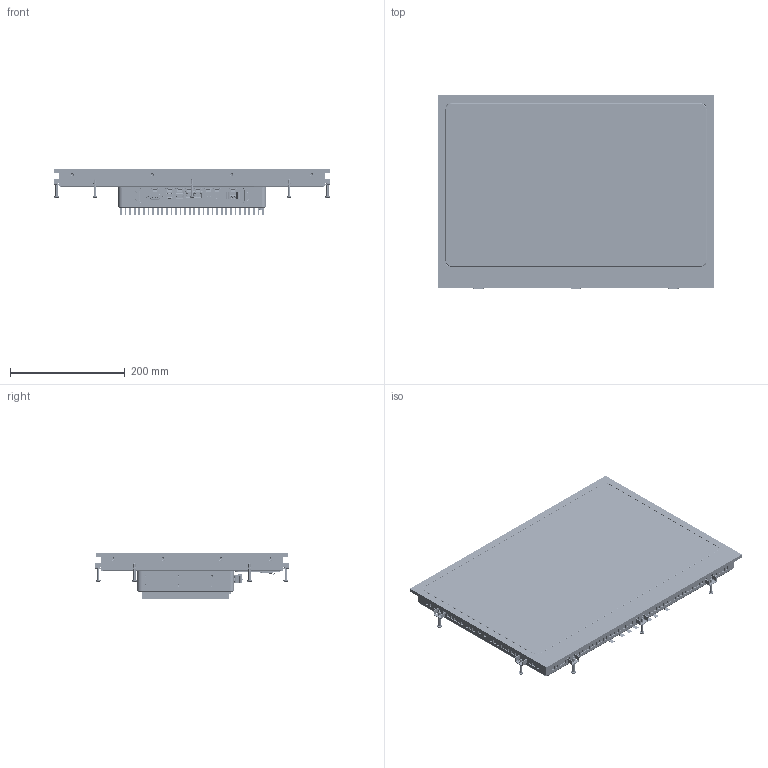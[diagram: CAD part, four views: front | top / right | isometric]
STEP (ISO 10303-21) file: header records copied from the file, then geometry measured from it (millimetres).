
FILE_DESCRIPTION(/* description */ (''),/* implementation_level */ '2;1');
FILE_NAME(/* name */ 'D:\Modelle vereinfacht\notion.S\CPU 6\18.5 Zoll\778-11979-01\778-11979-01_EXTERN.ipt.stp',/* time_stamp */ '2025-07-09T11:49:56+02:00',/* author */ ('Blessing'),/* organization */ (''),/* preprocessor_version */ 'ST-DEVELOPER v18.1',/* originating_system */ 'Autodesk Inventor 2021',/* authorisation */ '');
FILE_SCHEMA (('AUTOMOTIVE_DESIGN { 1 0 10303 214 3 1 1 }'));
Products named in the file (8): Baugruppe87; 778-11979-01; 778-90247_EXTERN_18.5; 778-90247-001_IAM_000; 778-90247-002_IPT_000; 778-90247-003_IPT_000; 64-196-296_EXTERN_CPU6; 64-196-296_IPT_000
Assembly tree (23 placements, depth 4):
  Baugruppe87
    778-11979-01
    778-90247_EXTERN_18.5
      778-90247-001_IAM_000  x10
        778-90247-002_IPT_000
        778-90247-003_IPT_000
    64-196-296_EXTERN_CPU6
      64-196-296_IPT_000  x8
Bounding box: 483.5 x 337.5 x 79.4 mm (x, y, z)
Volume: 6462500.6 mm3; surface area: 620859.3 mm2
Topology: 29 solids, 53 shells, 14776 faces, 41681 edges, 27181 vertices
Faces by surface type: plane 9990, cylinder 3144, bspline 857, cone 387, torus 357, sphere 41
Full cylindrical faces by diameter (mm): 0.434 x1, 0.457 x1, 0.5 x11, 0.6 x3, 0.65 x8, 0.8 x1, 0.85 x1, 0.95 x8, 1.1 x1, 1.2 x2, 1.4 x2, 2.156 x2, 2.5 x4, 2.8 x2, 3.242 x10, 4 x12, 4.7 x8, 5.54 x25, 6 x12, 6.2 x12, 7 x1, 7.2 x12
Entity records: 445227 total; most frequent: CARTESIAN_POINT 106929, ORIENTED_EDGE 70591, DIRECTION 62118, EDGE_CURVE 36027, LINE 27662, VECTOR 27662, VERTEX_POINT 23586, AXIS2_PLACEMENT_3D 17228
